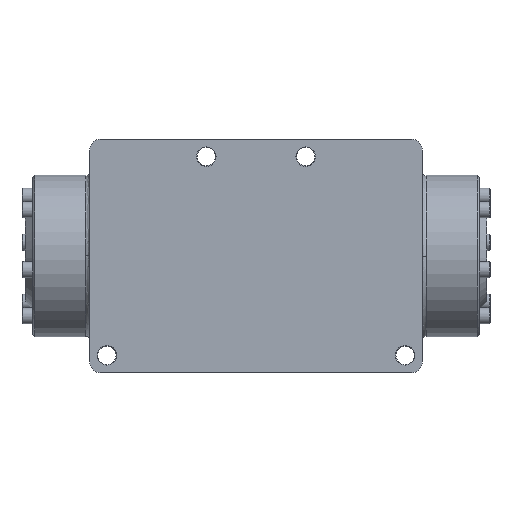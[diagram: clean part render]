
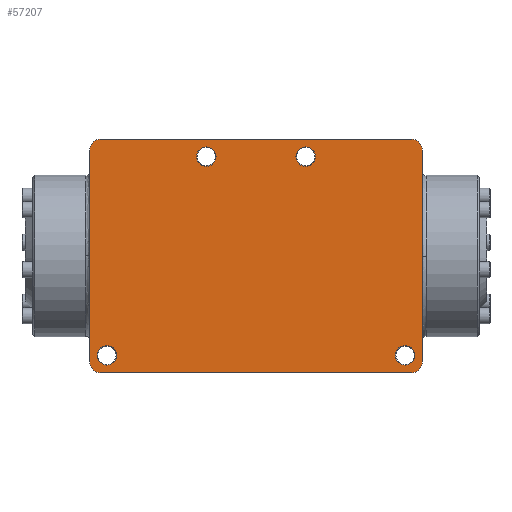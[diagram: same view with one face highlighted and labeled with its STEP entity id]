
A CAD part, front view. The second image highlights one B-rep face of the part: STEP entity #57207.
In plain terms, the highlighted planar face has unit normal (0, -1, 0).
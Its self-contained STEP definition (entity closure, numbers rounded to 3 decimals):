
#1206=FACE_BOUND('',#10744,.T.);
#1207=FACE_BOUND('',#10745,.T.);
#1208=FACE_BOUND('',#10746,.T.);
#1209=FACE_BOUND('',#10747,.T.);
#4204=CIRCLE('',#62605,0.714);
#4206=CIRCLE('',#62608,0.714);
#4208=CIRCLE('',#62611,0.714);
#4210=CIRCLE('',#62614,0.714);
#4220=CIRCLE('',#62639,0.794);
#4221=CIRCLE('',#62640,0.794);
#4222=CIRCLE('',#62641,0.794);
#4223=CIRCLE('',#62642,0.794);
#7264=FACE_OUTER_BOUND('',#10743,.T.);
#10743=EDGE_LOOP('',(#44859,#44860,#44861,#44862,#44863,#44864,#44865,#44866));
#10744=EDGE_LOOP('',(#44867));
#10745=EDGE_LOOP('',(#44868));
#10746=EDGE_LOOP('',(#44869));
#10747=EDGE_LOOP('',(#44870));
#14520=LINE('',#99287,#18396);
#14521=LINE('',#99291,#18397);
#14522=LINE('',#99295,#18398);
#14523=LINE('',#99298,#18399);
#18396=VECTOR('',#75127,1.);
#18397=VECTOR('',#75130,1.);
#18398=VECTOR('',#75133,1.);
#18399=VECTOR('',#75136,1.);
#24467=VERTEX_POINT('',#99215);
#24469=VERTEX_POINT('',#99221);
#24471=VERTEX_POINT('',#99227);
#24473=VERTEX_POINT('',#99233);
#24483=VERTEX_POINT('',#99283);
#24484=VERTEX_POINT('',#99284);
#24485=VERTEX_POINT('',#99286);
#24486=VERTEX_POINT('',#99288);
#24487=VERTEX_POINT('',#99290);
#24488=VERTEX_POINT('',#99292);
#24489=VERTEX_POINT('',#99294);
#24490=VERTEX_POINT('',#99296);
#31542=EDGE_CURVE('',#24467,#24467,#4204,.T.);
#31545=EDGE_CURVE('',#24469,#24469,#4206,.T.);
#31548=EDGE_CURVE('',#24471,#24471,#4208,.T.);
#31551=EDGE_CURVE('',#24473,#24473,#4210,.T.);
#31576=EDGE_CURVE('',#24483,#24484,#4220,.T.);
#31577=EDGE_CURVE('',#24484,#24485,#14520,.T.);
#31578=EDGE_CURVE('',#24485,#24486,#4221,.T.);
#31579=EDGE_CURVE('',#24486,#24487,#14521,.T.);
#31580=EDGE_CURVE('',#24487,#24488,#4222,.T.);
#31581=EDGE_CURVE('',#24488,#24489,#14522,.T.);
#31582=EDGE_CURVE('',#24489,#24490,#4223,.T.);
#31583=EDGE_CURVE('',#24490,#24483,#14523,.T.);
#44859=ORIENTED_EDGE('',*,*,#31576,.T.);
#44860=ORIENTED_EDGE('',*,*,#31577,.T.);
#44861=ORIENTED_EDGE('',*,*,#31578,.T.);
#44862=ORIENTED_EDGE('',*,*,#31579,.T.);
#44863=ORIENTED_EDGE('',*,*,#31580,.T.);
#44864=ORIENTED_EDGE('',*,*,#31581,.T.);
#44865=ORIENTED_EDGE('',*,*,#31582,.T.);
#44866=ORIENTED_EDGE('',*,*,#31583,.T.);
#44867=ORIENTED_EDGE('',*,*,#31542,.T.);
#44868=ORIENTED_EDGE('',*,*,#31545,.T.);
#44869=ORIENTED_EDGE('',*,*,#31548,.T.);
#44870=ORIENTED_EDGE('',*,*,#31551,.T.);
#51404=PLANE('',#62638);
#57207=ADVANCED_FACE('',(#7264,#1206,#1207,#1208,#1209),#51404,.T.);
#62605=AXIS2_PLACEMENT_3D('',#99216,#75039,#75040);
#62608=AXIS2_PLACEMENT_3D('',#99222,#75046,#75047);
#62611=AXIS2_PLACEMENT_3D('',#99228,#75053,#75054);
#62614=AXIS2_PLACEMENT_3D('',#99234,#75060,#75061);
#62638=AXIS2_PLACEMENT_3D('',#99282,#75123,#75124);
#62639=AXIS2_PLACEMENT_3D('',#99285,#75125,#75126);
#62640=AXIS2_PLACEMENT_3D('',#99289,#75128,#75129);
#62641=AXIS2_PLACEMENT_3D('',#99293,#75131,#75132);
#62642=AXIS2_PLACEMENT_3D('',#99297,#75134,#75135);
#75039=DIRECTION('center_axis',(0.,1.,0.));
#75040=DIRECTION('ref_axis',(1.,0.,0.));
#75046=DIRECTION('center_axis',(0.,1.,0.));
#75047=DIRECTION('ref_axis',(1.,0.,0.));
#75053=DIRECTION('center_axis',(0.,1.,0.));
#75054=DIRECTION('ref_axis',(1.,0.,0.));
#75060=DIRECTION('center_axis',(0.,1.,0.));
#75061=DIRECTION('ref_axis',(1.,0.,0.));
#75123=DIRECTION('center_axis',(0.,-1.,0.));
#75124=DIRECTION('ref_axis',(1.,0.,0.));
#75125=DIRECTION('center_axis',(0.,-1.,0.));
#75126=DIRECTION('ref_axis',(0.707,0.,-0.707));
#75127=DIRECTION('',(0.,0.,1.));
#75128=DIRECTION('center_axis',(0.,-1.,0.));
#75129=DIRECTION('ref_axis',(0.707,0.,0.707));
#75130=DIRECTION('',(-1.,0.,0.));
#75131=DIRECTION('center_axis',(0.,-1.,0.));
#75132=DIRECTION('ref_axis',(-0.707,0.,0.707));
#75133=DIRECTION('',(0.,0.,-1.));
#75134=DIRECTION('center_axis',(0.,-1.,0.));
#75135=DIRECTION('ref_axis',(-0.707,0.,-0.707));
#75136=DIRECTION('',(1.,0.,0.));
#99215=CARTESIAN_POINT('',(2.936,-6.35,7.303));
#99216=CARTESIAN_POINT('Origin',(3.65,-6.35,7.303));
#99221=CARTESIAN_POINT('',(-11.667,-6.35,-7.303));
#99222=CARTESIAN_POINT('Origin',(-10.952,-6.35,-7.303));
#99227=CARTESIAN_POINT('',(10.238,-6.35,-7.303));
#99228=CARTESIAN_POINT('Origin',(10.952,-6.35,-7.303));
#99233=CARTESIAN_POINT('',(-4.364,-6.35,7.303));
#99234=CARTESIAN_POINT('Origin',(-3.65,-6.35,7.303));
#99282=CARTESIAN_POINT('Origin',(-12.51,-6.35,0.));
#99283=CARTESIAN_POINT('',(11.43,-6.35,-8.572));
#99284=CARTESIAN_POINT('',(12.224,-6.35,-7.779));
#99285=CARTESIAN_POINT('Origin',(11.43,-6.35,-7.779));
#99286=CARTESIAN_POINT('',(12.224,-6.35,7.779));
#99287=CARTESIAN_POINT('',(12.224,-6.35,-4.286));
#99288=CARTESIAN_POINT('',(11.43,-6.35,8.573));
#99289=CARTESIAN_POINT('Origin',(11.43,-6.35,7.779));
#99290=CARTESIAN_POINT('',(-11.43,-6.35,8.573));
#99291=CARTESIAN_POINT('',(-0.143,-6.35,8.573));
#99292=CARTESIAN_POINT('',(-12.224,-6.35,7.779));
#99293=CARTESIAN_POINT('Origin',(-11.43,-6.35,7.779));
#99294=CARTESIAN_POINT('',(-12.224,-6.35,-7.779));
#99295=CARTESIAN_POINT('',(-12.224,-6.35,4.286));
#99296=CARTESIAN_POINT('',(-11.43,-6.35,-8.573));
#99297=CARTESIAN_POINT('Origin',(-11.43,-6.35,-7.779));
#99298=CARTESIAN_POINT('',(-12.367,-6.35,-8.573));
